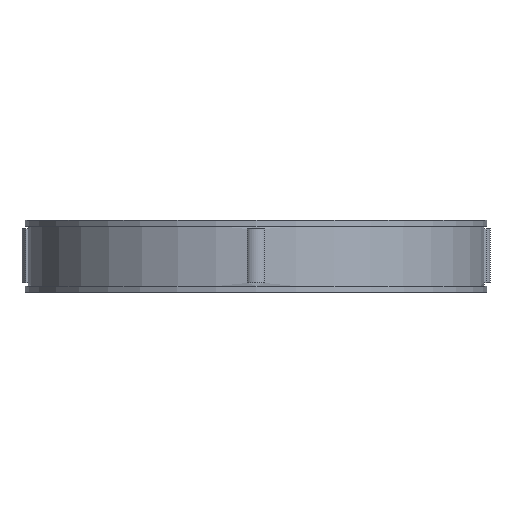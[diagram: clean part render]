
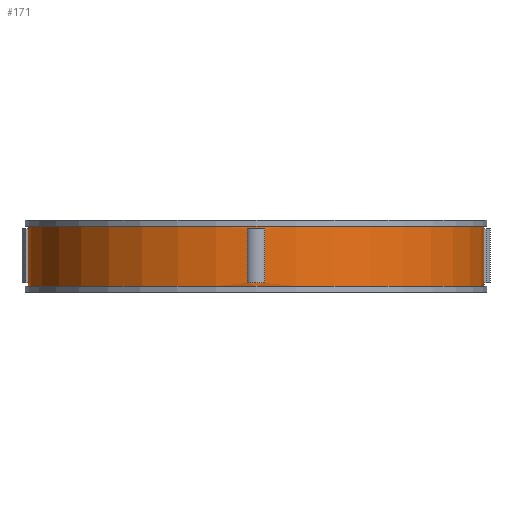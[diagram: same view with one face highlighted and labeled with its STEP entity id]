
A CAD part, front view. The second image highlights one B-rep face of the part: STEP entity #171.
In plain terms, the highlighted cylindrical face has radius 38 mm (diameter 76 mm), a full revolution.
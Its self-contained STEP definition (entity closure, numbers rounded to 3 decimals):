
#171=ADVANCED_FACE('',(#359,#360,#361,#362,#363,#364),#219,.T.);
#219=CYLINDRICAL_SURFACE('',#882,38.);
#231=LINE('',#1207,#295);
#232=LINE('',#1212,#296);
#233=LINE('',#1215,#297);
#234=LINE('',#1220,#298);
#235=LINE('',#1223,#299);
#236=LINE('',#1228,#300);
#237=LINE('',#1234,#301);
#238=LINE('',#1238,#302);
#295=VECTOR('',#966,1.);
#296=VECTOR('',#969,1.);
#297=VECTOR('',#972,1.);
#298=VECTOR('',#975,1.);
#299=VECTOR('',#978,1.);
#300=VECTOR('',#981,1.);
#301=VECTOR('',#986,1.);
#302=VECTOR('',#989,1.);
#359=FACE_BOUND('',#383,.T.);
#360=FACE_BOUND('',#384,.T.);
#361=FACE_BOUND('',#385,.T.);
#362=FACE_BOUND('',#386,.T.);
#363=FACE_BOUND('',#387,.T.);
#364=FACE_BOUND('',#388,.T.);
#383=EDGE_LOOP('',(#447));
#384=EDGE_LOOP('',(#448));
#385=EDGE_LOOP('',(#449,#450,#451,#452));
#386=EDGE_LOOP('',(#453,#454,#455,#456));
#387=EDGE_LOOP('',(#457,#458,#459,#460));
#388=EDGE_LOOP('',(#461,#462,#463,#464));
#447=ORIENTED_EDGE('',*,*,#727,.F.);
#448=ORIENTED_EDGE('',*,*,#728,.T.);
#449=ORIENTED_EDGE('',*,*,#729,.F.);
#450=ORIENTED_EDGE('',*,*,#730,.T.);
#451=ORIENTED_EDGE('',*,*,#731,.F.);
#452=ORIENTED_EDGE('',*,*,#732,.F.);
#453=ORIENTED_EDGE('',*,*,#733,.F.);
#454=ORIENTED_EDGE('',*,*,#734,.T.);
#455=ORIENTED_EDGE('',*,*,#735,.F.);
#456=ORIENTED_EDGE('',*,*,#736,.F.);
#457=ORIENTED_EDGE('',*,*,#737,.F.);
#458=ORIENTED_EDGE('',*,*,#738,.T.);
#459=ORIENTED_EDGE('',*,*,#739,.F.);
#460=ORIENTED_EDGE('',*,*,#740,.F.);
#461=ORIENTED_EDGE('',*,*,#741,.F.);
#462=ORIENTED_EDGE('',*,*,#742,.T.);
#463=ORIENTED_EDGE('',*,*,#743,.T.);
#464=ORIENTED_EDGE('',*,*,#744,.T.);
#655=VERTEX_POINT('',#1204);
#656=VERTEX_POINT('',#1206);
#657=VERTEX_POINT('',#1208);
#658=VERTEX_POINT('',#1209);
#659=VERTEX_POINT('',#1211);
#660=VERTEX_POINT('',#1213);
#661=VERTEX_POINT('',#1216);
#662=VERTEX_POINT('',#1217);
#663=VERTEX_POINT('',#1219);
#664=VERTEX_POINT('',#1221);
#665=VERTEX_POINT('',#1224);
#666=VERTEX_POINT('',#1225);
#667=VERTEX_POINT('',#1227);
#668=VERTEX_POINT('',#1229);
#669=VERTEX_POINT('',#1232);
#670=VERTEX_POINT('',#1233);
#671=VERTEX_POINT('',#1235);
#672=VERTEX_POINT('',#1237);
#727=EDGE_CURVE('',#655,#655,#831,.T.);
#728=EDGE_CURVE('',#656,#656,#832,.T.);
#729=EDGE_CURVE('',#657,#658,#231,.T.);
#730=EDGE_CURVE('',#657,#659,#833,.T.);
#731=EDGE_CURVE('',#660,#659,#232,.T.);
#732=EDGE_CURVE('',#658,#660,#834,.T.);
#733=EDGE_CURVE('',#661,#662,#233,.T.);
#734=EDGE_CURVE('',#661,#663,#835,.T.);
#735=EDGE_CURVE('',#664,#663,#234,.T.);
#736=EDGE_CURVE('',#662,#664,#836,.T.);
#737=EDGE_CURVE('',#665,#666,#235,.T.);
#738=EDGE_CURVE('',#665,#667,#837,.T.);
#739=EDGE_CURVE('',#668,#667,#236,.T.);
#740=EDGE_CURVE('',#666,#668,#838,.T.);
#741=EDGE_CURVE('',#669,#670,#839,.T.);
#742=EDGE_CURVE('',#669,#671,#237,.T.);
#743=EDGE_CURVE('',#671,#672,#840,.T.);
#744=EDGE_CURVE('',#672,#670,#238,.T.);
#831=CIRCLE('',#872,38.);
#832=CIRCLE('',#873,38.);
#833=CIRCLE('',#874,38.);
#834=CIRCLE('',#875,38.);
#835=CIRCLE('',#876,38.);
#836=CIRCLE('',#877,38.);
#837=CIRCLE('',#878,38.);
#838=CIRCLE('',#879,38.);
#839=CIRCLE('',#880,38.);
#840=CIRCLE('',#881,38.);
#872=AXIS2_PLACEMENT_3D('',#1203,#962,#963);
#873=AXIS2_PLACEMENT_3D('',#1205,#964,#965);
#874=AXIS2_PLACEMENT_3D('',#1210,#967,#968);
#875=AXIS2_PLACEMENT_3D('',#1214,#970,#971);
#876=AXIS2_PLACEMENT_3D('',#1218,#973,#974);
#877=AXIS2_PLACEMENT_3D('',#1222,#976,#977);
#878=AXIS2_PLACEMENT_3D('',#1226,#979,#980);
#879=AXIS2_PLACEMENT_3D('',#1230,#982,#983);
#880=AXIS2_PLACEMENT_3D('',#1231,#984,#985);
#881=AXIS2_PLACEMENT_3D('',#1236,#987,#988);
#882=AXIS2_PLACEMENT_3D('',#1239,#990,#991);
#962=DIRECTION('',(0.,0.,1.));
#963=DIRECTION('',(1.,0.,0.));
#964=DIRECTION('',(0.,0.,1.));
#965=DIRECTION('',(1.,0.,0.));
#966=DIRECTION('',(0.,0.,-1.));
#967=DIRECTION('',(0.,0.,1.));
#968=DIRECTION('',(1.,0.,0.));
#969=DIRECTION('',(0.,0.,1.));
#970=DIRECTION('',(0.,0.,1.));
#971=DIRECTION('',(1.,0.,0.));
#972=DIRECTION('',(0.,0.,-1.));
#973=DIRECTION('',(0.,0.,1.));
#974=DIRECTION('',(1.,0.,0.));
#975=DIRECTION('',(0.,0.,1.));
#976=DIRECTION('',(0.,0.,1.));
#977=DIRECTION('',(1.,0.,0.));
#978=DIRECTION('',(0.,0.,-1.));
#979=DIRECTION('',(0.,0.,1.));
#980=DIRECTION('',(1.,0.,0.));
#981=DIRECTION('',(0.,0.,1.));
#982=DIRECTION('',(0.,0.,1.));
#983=DIRECTION('',(1.,0.,0.));
#984=DIRECTION('',(0.,0.,-1.));
#985=DIRECTION('',(-1.,0.,0.));
#986=DIRECTION('',(0.,0.,-1.));
#987=DIRECTION('',(0.,0.,-1.));
#988=DIRECTION('',(-1.,0.,0.));
#989=DIRECTION('',(0.,0.,1.));
#990=DIRECTION('',(0.,0.,-1.));
#991=DIRECTION('',(-1.,0.,0.));
#1203=CARTESIAN_POINT('',(0.,0.,11.));
#1204=CARTESIAN_POINT('',(38.,0.,11.));
#1205=CARTESIAN_POINT('',(0.,0.,1.));
#1206=CARTESIAN_POINT('',(38.,0.,1.));
#1207=CARTESIAN_POINT('',(37.972,-1.471,12.));
#1208=CARTESIAN_POINT('',(37.972,-1.471,10.5));
#1209=CARTESIAN_POINT('',(37.972,-1.471,1.5));
#1210=CARTESIAN_POINT('',(0.,0.,10.5));
#1211=CARTESIAN_POINT('',(37.972,1.471,10.5));
#1212=CARTESIAN_POINT('',(37.972,1.471,12.));
#1213=CARTESIAN_POINT('',(37.972,1.471,1.5));
#1214=CARTESIAN_POINT('',(0.,0.,1.5));
#1215=CARTESIAN_POINT('',(1.471,37.972,12.));
#1216=CARTESIAN_POINT('',(1.471,37.972,10.5));
#1217=CARTESIAN_POINT('',(1.471,37.972,1.5));
#1218=CARTESIAN_POINT('',(0.,0.,10.5));
#1219=CARTESIAN_POINT('',(-1.471,37.972,10.5));
#1220=CARTESIAN_POINT('',(-1.471,37.972,12.));
#1221=CARTESIAN_POINT('',(-1.471,37.972,1.5));
#1222=CARTESIAN_POINT('',(0.,0.,1.5));
#1223=CARTESIAN_POINT('',(-37.972,1.471,12.));
#1224=CARTESIAN_POINT('',(-37.972,1.471,10.5));
#1225=CARTESIAN_POINT('',(-37.972,1.471,1.5));
#1226=CARTESIAN_POINT('',(0.,0.,10.5));
#1227=CARTESIAN_POINT('',(-37.972,-1.471,10.5));
#1228=CARTESIAN_POINT('',(-37.972,-1.471,12.));
#1229=CARTESIAN_POINT('',(-37.972,-1.471,1.5));
#1230=CARTESIAN_POINT('',(0.,0.,1.5));
#1231=CARTESIAN_POINT('',(0.,0.,10.5));
#1232=CARTESIAN_POINT('',(1.471,-37.972,10.5));
#1233=CARTESIAN_POINT('',(-1.471,-37.972,10.5));
#1234=CARTESIAN_POINT('',(1.471,-37.972,12.));
#1235=CARTESIAN_POINT('',(1.471,-37.972,1.5));
#1236=CARTESIAN_POINT('',(0.,0.,1.5));
#1237=CARTESIAN_POINT('',(-1.471,-37.972,1.5));
#1238=CARTESIAN_POINT('',(-1.471,-37.972,12.));
#1239=CARTESIAN_POINT('',(0.,0.,12.));
